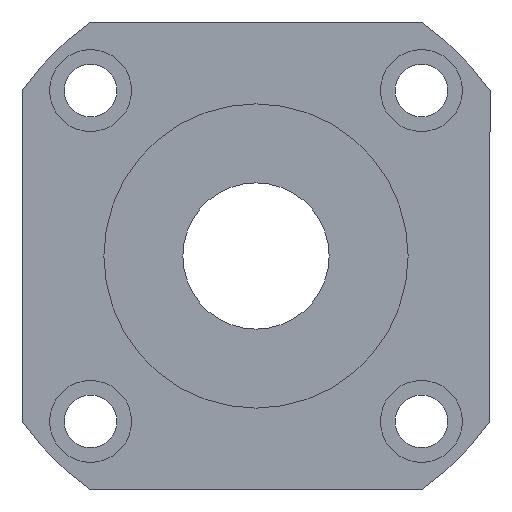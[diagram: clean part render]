
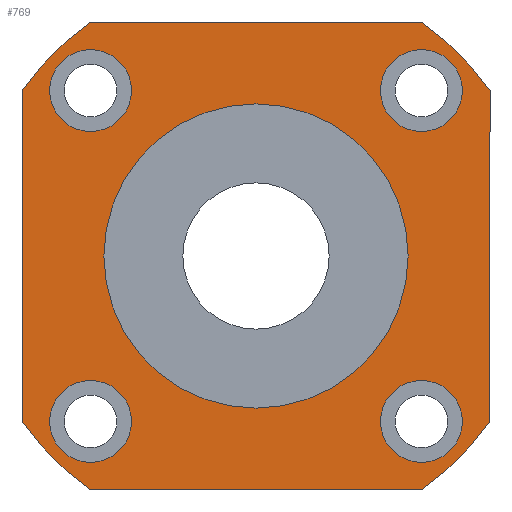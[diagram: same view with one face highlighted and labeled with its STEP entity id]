
A CAD part, left-side view. The second image highlights one B-rep face of the part: STEP entity #769.
In plain terms, the highlighted planar face has unit normal (-1, 0, 0).
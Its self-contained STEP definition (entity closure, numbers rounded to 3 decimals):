
#165=CARTESIAN_POINT('',(0.0,28.284,21.284));
#166=VERTEX_POINT('',#165);
#167=CARTESIAN_POINT('',(0.0,28.284,28.284));
#168=DIRECTION('',(1.0,0.0,0.0));
#169=DIRECTION('',(0.0,0.0,-1.0));
#170=AXIS2_PLACEMENT_3D('',#167,#168,#169);
#171=CIRCLE('',#170,7.);
#172=EDGE_CURVE('',#166,#166,#171,.T.);
#233=CARTESIAN_POINT('',(0.0,21.284,-28.284));
#234=VERTEX_POINT('',#233);
#235=CARTESIAN_POINT('',(0.0,28.284,-28.284));
#236=DIRECTION('',(1.0,0.0,0.0));
#237=DIRECTION('',(0.0,-1.0,0.0));
#238=AXIS2_PLACEMENT_3D('',#235,#236,#237);
#239=CIRCLE('',#238,7.);
#240=EDGE_CURVE('',#234,#234,#239,.T.);
#301=CARTESIAN_POINT('',(0.0,-28.284,-21.284));
#302=VERTEX_POINT('',#301);
#303=CARTESIAN_POINT('',(0.0,-28.284,-28.284));
#304=DIRECTION('',(1.0,0.0,0.0));
#305=DIRECTION('',(0.0,0.0,1.0));
#306=AXIS2_PLACEMENT_3D('',#303,#304,#305);
#307=CIRCLE('',#306,7.);
#308=EDGE_CURVE('',#302,#302,#307,.T.);
#369=CARTESIAN_POINT('',(0.0,-21.284,28.284));
#370=VERTEX_POINT('',#369);
#371=CARTESIAN_POINT('',(0.0,-28.284,28.284));
#372=DIRECTION('',(1.0,0.0,0.0));
#373=DIRECTION('',(0.0,1.0,0.0));
#374=AXIS2_PLACEMENT_3D('',#371,#372,#373);
#375=CIRCLE('',#374,7.);
#376=EDGE_CURVE('',#370,#370,#375,.T.);
#529=CARTESIAN_POINT('',(0.0,28.302,-40.));
#530=VERTEX_POINT('',#529);
#537=CARTESIAN_POINT('',(0.0,40.,-28.302));
#538=VERTEX_POINT('',#537);
#539=CARTESIAN_POINT('',(0.0,0.,0.));
#540=DIRECTION('',(1.0,0.0,0.0));
#541=DIRECTION('',(0.0,1.0,0.0));
#542=AXIS2_PLACEMENT_3D('',#539,#540,#541);
#543=CIRCLE('',#542,49.0);
#544=EDGE_CURVE('',#530,#538,#543,.T.);
#561=CARTESIAN_POINT('',(0.0,-28.302,-40.));
#562=VERTEX_POINT('',#561);
#569=CARTESIAN_POINT('',(0.0,-28.302,-40.));
#570=DIRECTION('',(0.0,1.0,0.0));
#571=VECTOR('',#570,56.604);
#572=LINE('',#569,#571);
#573=EDGE_CURVE('',#562,#530,#572,.T.);
#585=CARTESIAN_POINT('',(0.0,-40.,-28.302));
#586=VERTEX_POINT('',#585);
#593=CARTESIAN_POINT('',(0.0,0.,0.));
#594=DIRECTION('',(1.0,0.0,0.0));
#595=DIRECTION('',(0.0,1.0,0.0));
#596=AXIS2_PLACEMENT_3D('',#593,#594,#595);
#597=CIRCLE('',#596,49.0);
#598=EDGE_CURVE('',#586,#562,#597,.T.);
#610=CARTESIAN_POINT('',(0.0,-40.,28.302));
#611=VERTEX_POINT('',#610);
#618=CARTESIAN_POINT('',(0.0,-40.,28.302));
#619=DIRECTION('',(0.0,0.0,-1.0));
#620=VECTOR('',#619,56.604);
#621=LINE('',#618,#620);
#622=EDGE_CURVE('',#611,#586,#621,.T.);
#636=CARTESIAN_POINT('',(0.0,26.,0.));
#637=VERTEX_POINT('',#636);
#638=CARTESIAN_POINT('',(0.0,0.,0.));
#639=DIRECTION('',(1.0,0.0,0.0));
#640=DIRECTION('',(0.0,-1.0,0.0));
#641=AXIS2_PLACEMENT_3D('',#638,#639,#640);
#642=CIRCLE('',#641,26.0);
#643=EDGE_CURVE('',#637,#637,#642,.T.);
#654=CARTESIAN_POINT('',(0.0,-28.302,40.));
#655=VERTEX_POINT('',#654);
#662=CARTESIAN_POINT('',(0.0,0.,0.));
#663=DIRECTION('',(1.0,0.0,0.0));
#664=DIRECTION('',(0.0,1.0,0.0));
#665=AXIS2_PLACEMENT_3D('',#662,#663,#664);
#666=CIRCLE('',#665,49.0);
#667=EDGE_CURVE('',#655,#611,#666,.T.);
#679=CARTESIAN_POINT('',(0.0,28.302,40.0));
#680=VERTEX_POINT('',#679);
#687=CARTESIAN_POINT('',(0.0,28.302,40.0));
#688=DIRECTION('',(0.0,-1.0,0.0));
#689=VECTOR('',#688,56.604);
#690=LINE('',#687,#689);
#691=EDGE_CURVE('',#680,#655,#690,.T.);
#703=CARTESIAN_POINT('',(0.0,40.,28.302));
#704=VERTEX_POINT('',#703);
#711=CARTESIAN_POINT('',(0.0,0.,0.));
#712=DIRECTION('',(1.0,0.0,0.0));
#713=DIRECTION('',(0.0,1.0,0.0));
#714=AXIS2_PLACEMENT_3D('',#711,#712,#713);
#715=CIRCLE('',#714,49.0);
#716=EDGE_CURVE('',#704,#680,#715,.T.);
#729=CARTESIAN_POINT('',(0.0,40.,-28.302));
#730=DIRECTION('',(0.0,0.0,1.0));
#731=VECTOR('',#730,56.604);
#732=LINE('',#729,#731);
#733=EDGE_CURVE('',#538,#704,#732,.T.);
#739=CARTESIAN_POINT('',(0.0,0.,0.));
#740=DIRECTION('',(1.0,0.0,0.0));
#741=DIRECTION('',(0.0,0.0,-1.0));
#742=AXIS2_PLACEMENT_3D('',#739,#740,#741);
#743=PLANE('',#742);
#744=ORIENTED_EDGE('',*,*,#598,.F.);
#745=ORIENTED_EDGE('',*,*,#622,.F.);
#746=ORIENTED_EDGE('',*,*,#667,.F.);
#747=ORIENTED_EDGE('',*,*,#691,.F.);
#748=ORIENTED_EDGE('',*,*,#716,.F.);
#749=ORIENTED_EDGE('',*,*,#733,.F.);
#750=ORIENTED_EDGE('',*,*,#544,.F.);
#751=ORIENTED_EDGE('',*,*,#573,.F.);
#752=EDGE_LOOP('',(#744,#745,#746,#747,#748,#749,#750,#751));
#753=FACE_OUTER_BOUND('',#752,.T.);
#754=ORIENTED_EDGE('',*,*,#172,.T.);
#755=EDGE_LOOP('',(#754));
#756=FACE_BOUND('',#755,.T.);
#757=ORIENTED_EDGE('',*,*,#240,.T.);
#758=EDGE_LOOP('',(#757));
#759=FACE_BOUND('',#758,.T.);
#760=ORIENTED_EDGE('',*,*,#308,.T.);
#761=EDGE_LOOP('',(#760));
#762=FACE_BOUND('',#761,.T.);
#763=ORIENTED_EDGE('',*,*,#376,.T.);
#764=EDGE_LOOP('',(#763));
#765=FACE_BOUND('',#764,.T.);
#766=ORIENTED_EDGE('',*,*,#643,.T.);
#767=EDGE_LOOP('',(#766));
#768=FACE_BOUND('',#767,.T.);
#769=ADVANCED_FACE('',(#753,#756,#759,#762,#765,#768),#743,.F.);
